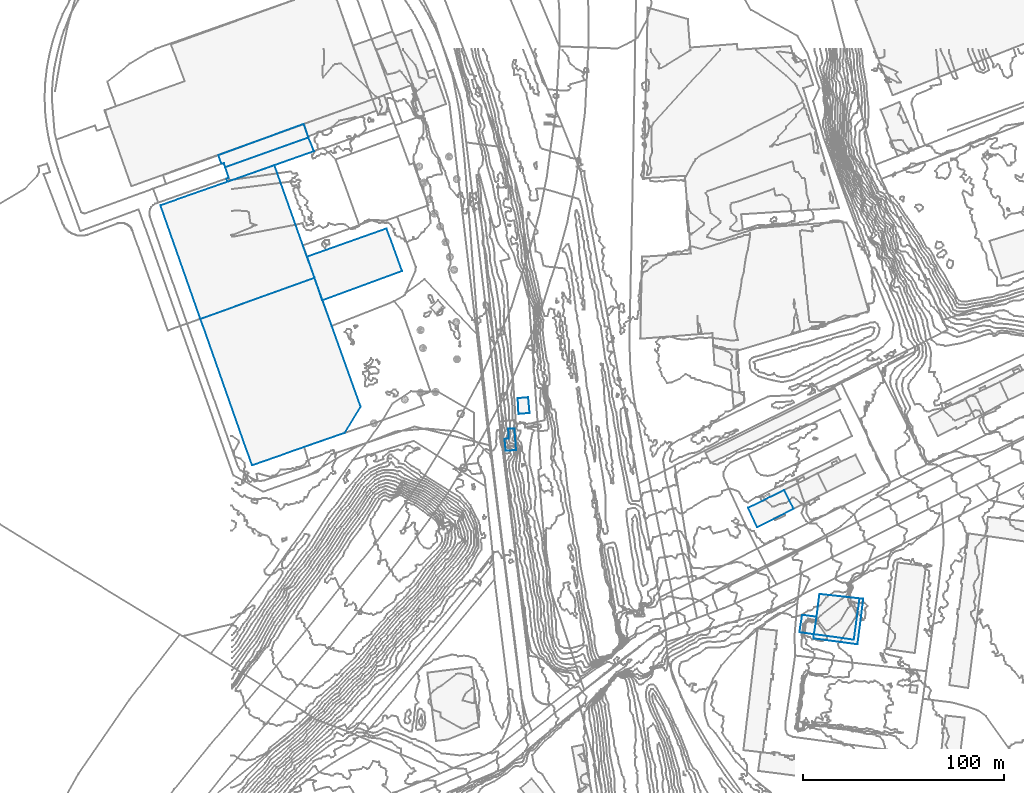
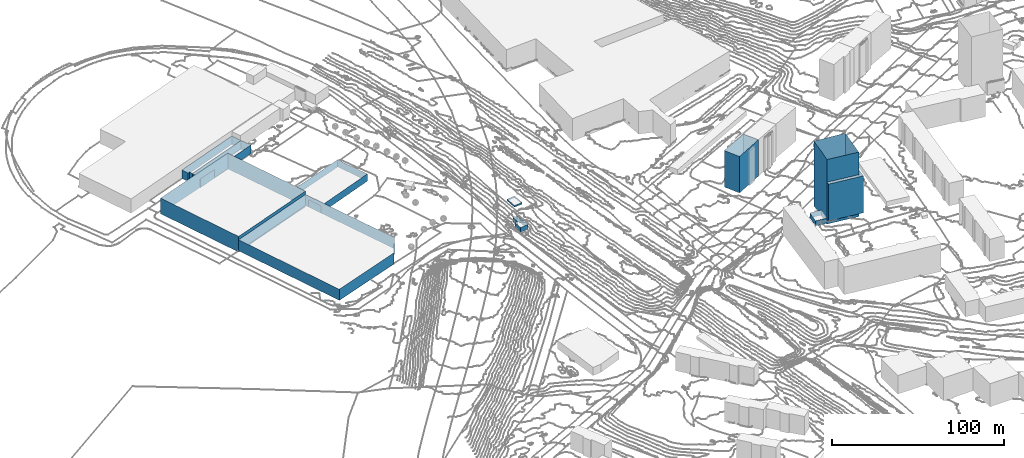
# Not in any storey, part 56 of 419: 11 walls.
"""IFC2X3 model written with IfcOpenShell, lengths in metres."""

from ifc_helpers import new_model, si_unit, frame, origin_with_axes, place, context, subcontext, project, faceted_brep, element, save


model = new_model("IFC2X3")

# Units and contexts
model_context = context("Model", 3, precision=1e-05, world=origin_with_axes())
body_context = subcontext(model_context, "Body", "Model", "MODEL_VIEW")
ifc_project = project(units=[si_unit("AREAUNIT", "SQUARE_METRE"), si_unit("LENGTHUNIT", "METRE")], contexts=[model_context])

# Walls
wall_1_placement = place(None, frame((37.2920204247, 929.2976909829, 21.1599998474), z_axis=(0.0, 0.0, 1.0), x_axis=(1.0, 0.0, 0.0)))
element("IfcWall", 1, at=wall_1_placement, Name="Mur 0", context=body_context, shape_type="Brep", body=[
    faceted_brep([(7.5, -21.7000000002, 5.1400001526), (0.0, 0.0, 5.1400001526), (7.5, -21.7000000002, 0.0), (0.0, 0.0, 0.0), (47.1000000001, -7.1000000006, 5.1400001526), (47.1000000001, -7.1000000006, 0.0), (39.4, 14.0, 5.1400001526), (39.4, 14.0, 0.0)], [[[0, 1, 2]], [[2, 1, 3]], [[4, 0, 5]], [[5, 0, 2]], [[1, 6, 3]], [[3, 6, 7]], [[6, 4, 7]], [[7, 4, 5]]]),
])
wall_2_placement = place(None, frame((141.7920204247, 858.9976909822, 25.4720998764), z_axis=(0.0, 0.0, 1.0), x_axis=(1.0, 0.0, 0.0)))
element("IfcWall", 2, at=wall_2_placement, Name="Mur 0", context=body_context, shape_type="Brep", body=[
    faceted_brep([(5.9, -7.2999999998, 1.2279001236), (0.4, -7.7999999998, 1.2279001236), (5.9, -7.2999999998, 0.0), (0.4, -7.7999999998, 0.0), (5.2000000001, 0.5, 1.2279001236), (5.2000000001, 0.5, 0.0), (0.0, 0.0, 1.2279001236), (0.0, 0.0, 0.0)], [[[0, 1, 2]], [[2, 1, 3]], [[4, 0, 5]], [[5, 0, 2]], [[1, 6, 3]], [[3, 6, 7]], [[6, 4, 7]], [[7, 4, 5]]]),
])
wall_3_placement = place(None, frame((-3.4079795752, 973.6976909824, 19.906999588), z_axis=(0.0, 0.0, 1.0), x_axis=(1.0, 0.0, 0.0)))
element("IfcWall", 3, at=wall_3_placement, Name="Mur 0", context=body_context, shape_type="Brep", body=[
    faceted_brep([(41.3, 14.7999999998, 6.193000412), (44.0, 8.0, 6.193000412), (41.3, 14.7999999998, 0.0), (44.0, 8.0, 0.0), (0.0, 0.0, 6.193000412), (0.0, 0.0, 0.0), (1.7, -5.2000000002, 6.193000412), (1.7, -5.2000000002, 0.0), (0.6, -5.5999999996, 6.193000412), (0.6, -5.5999999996, 0.0), (1.2, -7.2000000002, 6.193000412), (1.2, -7.2000000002, 0.0)], [[[0, 1, 2]], [[2, 1, 3]], [[4, 0, 5]], [[5, 0, 2]], [[6, 4, 7]], [[7, 4, 5]], [[8, 6, 9]], [[9, 6, 7]], [[1, 10, 3]], [[3, 10, 11]], [[10, 8, 11]], [[11, 8, 9]]]),
])
wall_4_placement = place(None, frame((-6.8079795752, 979.7976909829, 20.1100006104), z_axis=(0.0, 0.0, 1.0), x_axis=(1.0, 0.0, 0.0)))
element("IfcWall", 4, at=wall_4_placement, Name="Mur 0", context=body_context, shape_type="Brep", body=[
    faceted_brep([(42.4, 15.3999999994, 5.9899993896), (44.7000000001, 8.6999999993, 5.9899993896), (42.4, 15.3999999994, 0.0), (44.7000000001, 8.6999999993, 0.0), (0.0, 0.0, 5.9899993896), (0.0, 0.0, 0.0), (1.5, -4.4000000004, 5.9899993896), (1.5, -4.4000000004, 0.0), (2.7000000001, -4.0, 5.9899993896), (2.7000000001, -4.0, 0.0), (3.4, -6.1000000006, 5.9899993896), (3.4, -6.1000000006, 0.0)], [[[0, 1, 2]], [[2, 1, 3]], [[4, 0, 5]], [[5, 0, 2]], [[6, 4, 7]], [[7, 4, 5]], [[8, 6, 9]], [[9, 6, 7]], [[1, 10, 3]], [[3, 10, 11]], [[10, 8, 11]], [[11, 8, 9]]]),
])
wall_5_placement = place(None, frame((281.6920204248, 742.7976909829, 29.0879993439), z_axis=(0.0, 0.0, 1.0), x_axis=(1.0, 0.0, 0.0)))
element("IfcWall", 5, at=wall_5_placement, Name="Mur 0", context=body_context, shape_type="Brep", body=[
    faceted_brep([(0.0, 0.0, 3.6120006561), (1.3, 8.5999999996, 3.6120006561), (0.0, 0.0, 0.0), (1.3, 8.5999999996, 0.0), (7.2000000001, -1.0, 3.6120006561), (7.2000000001, -1.0, 0.0), (8.5, 7.6999999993, 3.6120006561), (8.5, 7.6999999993, 0.0)], [[[0, 1, 2]], [[2, 1, 3]], [[4, 0, 5]], [[5, 0, 2]], [[1, 6, 3]], [[3, 6, 7]], [[6, 4, 7]], [[7, 4, 5]]]),
])
wall_6_placement = place(None, frame((-15.7079795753, 898.3976909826, 21.1100006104), z_axis=(0.0, 0.0, 1.0), x_axis=(1.0, 0.0, 0.0)))
element("IfcWall", 6, at=wall_6_placement, Name="Mur 0", context=body_context, shape_type="Brep", body=[
    faceted_brep([(0.0, 0.0, 7.8899993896), (56.6000000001, 20.4000000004, 7.8899993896), (0.0, 0.0, 0.0), (56.6000000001, 20.4000000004, 0.0), (25.6000000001, -72.7000000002, 7.8899993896), (25.6000000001, -72.7000000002, 0.0), (71.5, -56.5999999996, 7.8899993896), (71.5, -56.5999999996, 0.0), (79.5, -43.5, 7.8899993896), (79.5, -43.5, 0.0)], [[[0, 1, 2]], [[2, 1, 3]], [[4, 0, 5]], [[5, 0, 2]], [[6, 4, 7]], [[7, 4, 5]], [[1, 8, 3]], [[3, 8, 9]], [[8, 6, 9]], [[9, 6, 7]]]),
])
wall_7_placement = place(None, frame((-35.6079795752, 954.7976909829, 20.2473999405), z_axis=(0.0, 0.0, 1.0), x_axis=(1.0, 0.0, 0.0)))
element("IfcWall", 7, at=wall_7_placement, Name="Mur 0", context=body_context, shape_type="Brep", body=[
    faceted_brep([(19.8999999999, -56.4000000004, 11.1526000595), (0.0, 0.0, 11.1526000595), (19.8999999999, -56.4000000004, 0.0), (0.0, 0.0, 0.0), (76.5, -36.0, 11.1526000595), (76.5, -36.0, 0.0), (56.6, 19.8999999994, 11.1526000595), (56.6, 19.8999999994, 0.0)], [[[0, 1, 2]], [[2, 1, 3]], [[4, 0, 5]], [[5, 0, 2]], [[1, 6, 3]], [[3, 6, 7]], [[6, 4, 7]], [[7, 4, 5]]]),
])
wall_8_placement = place(None, frame((135.2920204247, 838.7976909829, 21.090999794), z_axis=(0.0, 0.0, 1.0), x_axis=(1.0, 0.0, 0.0)))
element("IfcWall", 8, at=wall_8_placement, Name="Mur 0", context=body_context, shape_type="Brep", body=[
    faceted_brep([(5.7000000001, -5.5, 3.309000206), (0.5, -5.9000000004, 3.309000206), (5.7000000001, -5.5, 0.0), (0.5, -5.9000000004, 0.0), (4.9, 5.1999999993, 3.309000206), (4.9, 5.1999999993, 0.0), (1.8, 5.0, 3.309000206), (1.8, 5.0, 0.0), (2.1000000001, 0.1999999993, 3.309000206), (2.1000000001, 0.1999999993, 0.0), (0.0, 0.0, 3.309000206), (0.0, 0.0, 0.0)], [[[0, 1, 2]], [[2, 1, 3]], [[4, 0, 5]], [[5, 0, 2]], [[6, 4, 7]], [[7, 4, 5]], [[8, 6, 9]], [[9, 6, 7]], [[1, 10, 3]], [[3, 10, 11]], [[10, 8, 11]], [[11, 8, 9]]]),
])
wall_9_placement = place(None, frame((256.1920204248, 804.5976909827, 28.2029998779), z_axis=(0.0, 0.0, 1.0), x_axis=(1.0, 0.0, 0.0)))
element("IfcWall", 9, at=wall_9_placement, Name="Mur 0", context=body_context, shape_type="Brep", body=[
    faceted_brep([(0.0, 0.0, 25.8970001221), (17.9, 8.7999999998, 25.8970001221), (0.0, 0.0, 0.0), (17.9, 8.7999999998, 0.0), (4.6, -9.7000000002, 25.8970001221), (4.6, -9.7000000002, 0.0), (22.6, -0.5, 25.8970001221), (22.6, -0.5, 0.0)], [[[0, 1, 2]], [[2, 1, 3]], [[4, 0, 5]], [[5, 0, 2]], [[1, 6, 3]], [[3, 6, 7]], [[6, 4, 7]], [[7, 4, 5]]]),
])
wall_10_placement = place(None, frame((288.6920204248, 739.6976909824, 31.9331994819), z_axis=(0.0, 0.0, 1.0), x_axis=(1.0, 0.0, 0.0)))
element("IfcWall", 10, at=wall_10_placement, Name="Mur 0", context=body_context, shape_type="Brep", body=[
    faceted_brep([(20.0, -0.5999999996, 26.2668005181), (22.8, 19.9000000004, 26.2668005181), (20.0, -0.5999999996, 0.0), (22.8, 19.9000000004, 0.0), (0.2000000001, 2.1000000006, 26.2668005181), (0.2000000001, 2.1000000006, 0.0), (0.0, 0.0, 26.2668005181), (0.0, 0.0, 0.0), (21.8, -2.8999999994, 26.2668005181), (21.8, -2.8999999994, 0.0), (24.7000000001, 19.7999999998, 26.2668005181), (24.7000000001, 19.7999999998, 0.0)], [[[0, 1, 2]], [[2, 1, 3]], [[4, 0, 5]], [[5, 0, 2]], [[6, 4, 7]], [[7, 4, 5]], [[8, 6, 9]], [[9, 6, 7]], [[1, 10, 3]], [[3, 10, 11]], [[10, 8, 11]], [[11, 8, 9]]]),
])
wall_11_placement = place(None, frame((288.8920204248, 741.7976909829, 28.4980007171), z_axis=(0.0, 0.0, 1.0), x_axis=(1.0, 0.0, 0.0)))
element("IfcWall", 11, at=wall_11_placement, Name="Mur 0", context=body_context, shape_type="Brep", body=[
    faceted_brep([(0.0, 0.0, 45.8019992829), (1.2999999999, 8.6999999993, 45.8019992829), (0.0, 0.0, 0.0), (1.2999999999, 8.6999999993, 0.0), (19.7999999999, -2.7000000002, 45.8019992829), (19.7999999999, -2.7000000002, 0.0), (22.6, 17.7999999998, 45.8019992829), (22.6, 17.7999999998, 0.0), (2.7, 20.0, 45.8019992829), (2.7, 20.0, 0.0)], [[[0, 1, 2]], [[2, 1, 3]], [[4, 0, 5]], [[5, 0, 2]], [[6, 4, 7]], [[7, 4, 5]], [[1, 8, 3]], [[3, 8, 9]], [[8, 6, 9]], [[9, 6, 7]]]),
])

save(model, "model.ifc")
